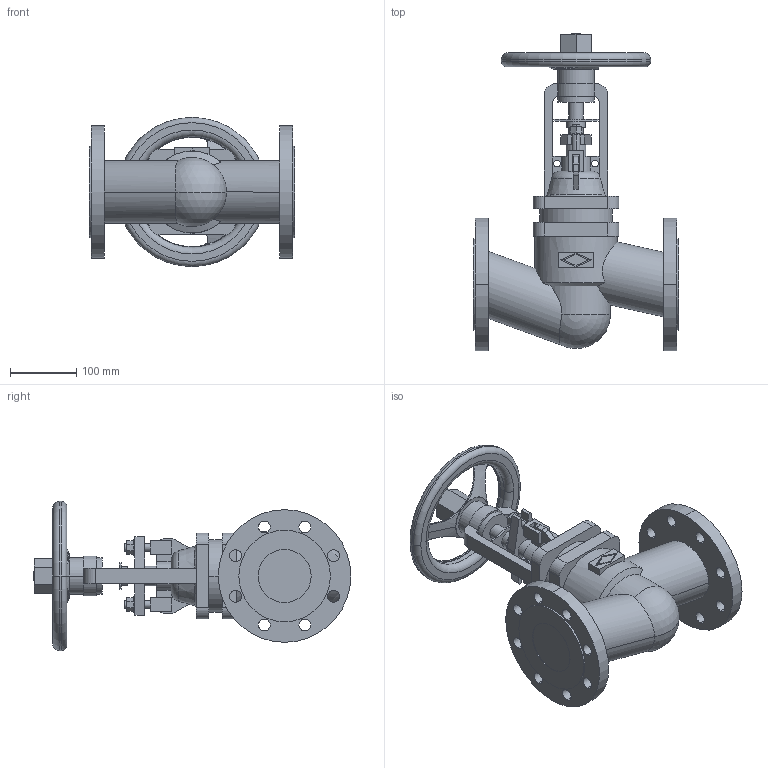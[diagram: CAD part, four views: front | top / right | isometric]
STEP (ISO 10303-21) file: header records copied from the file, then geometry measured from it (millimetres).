
FILE_DESCRIPTION(('OneSpaceDesigner STEP Export'),'2;1');
FILE_NAME('c000003742.stp','2010-04-27T 9:26:22',(''),(''),'OneSpace Designer STEP processor for AP214 (Solid Model)','OneSpace Modeling 15.50B 03-Nov-2007 (C) CoCreate Software GmbH','');
FILE_SCHEMA(('AUTOMOTIVE_DESIGN { 1 0 10303 214 1 1 1 1 }'));
Length unit declared in the file: millimetre
Products named in the file (1): 1
Bounding box: 310 x 479.3 x 225 mm (x, y, z)
Volume: 5925986.3 mm3; surface area: 469163.6 mm2
Topology: 1 solids, 1 shells, 320 faces, 869 edges, 573 vertices
Faces by surface type: plane 148, cylinder 140, torus 20, cone 10, sphere 2
Entity records: 12971 total; most frequent: CARTESIAN_POINT 2760, ORIENTED_EDGE 1734, DIRECTION 1390, EDGE_CURVE 867, VERTEX_POINT 573, AXIS2_PLACEMENT_3D 476, VECTOR 438, LINE 438
